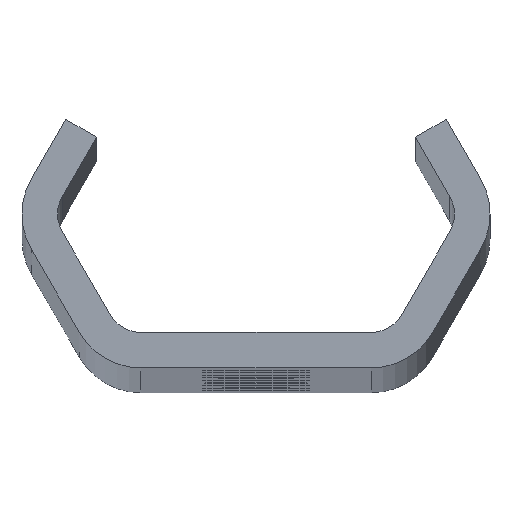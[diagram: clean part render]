
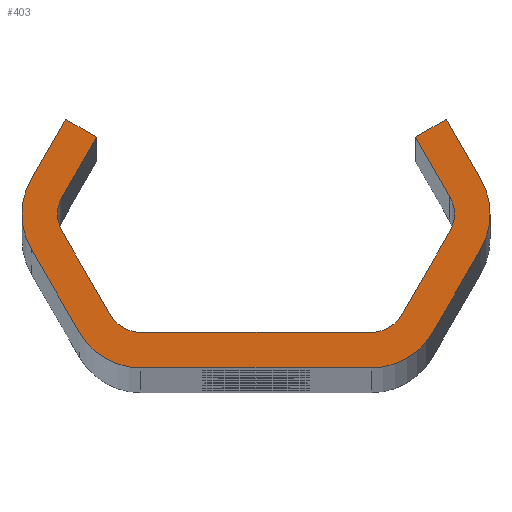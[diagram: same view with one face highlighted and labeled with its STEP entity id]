
A CAD part, top view. The second image highlights one B-rep face of the part: STEP entity #403.
In plain terms, the highlighted planar face has unit normal (0, 0, 1).
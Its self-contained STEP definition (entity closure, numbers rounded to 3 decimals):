
#403=ADVANCED_FACE('NONE',(#1090),#1091,.F.);
#1090=FACE_OUTER_BOUND('',#3400,.T.);
#1091=PLANE('',#3401);
#3400=EDGE_LOOP('',(#6841,#6842,#6843,#6844,#6845,#6846,#6847,#6848,#6849,#6850,#6851,#6852,#6853,#6854,#6855,#6856,#6857,#6858,#6859,#6860,#6861,#6862,#6863,#6864));
#3401=AXIS2_PLACEMENT_3D('',#6865,#6866,#6867);
#6841=ORIENTED_EDGE('',*,*,#9157,.T.);
#6842=ORIENTED_EDGE('',*,*,#9183,.T.);
#6843=ORIENTED_EDGE('',*,*,#8948,.T.);
#6844=ORIENTED_EDGE('',*,*,#9159,.T.);
#6845=ORIENTED_EDGE('',*,*,#9184,.T.);
#6846=ORIENTED_EDGE('',*,*,#9163,.T.);
#6847=ORIENTED_EDGE('',*,*,#9185,.T.);
#6848=ORIENTED_EDGE('',*,*,#8955,.T.);
#6849=ORIENTED_EDGE('',*,*,#9186,.T.);
#6850=ORIENTED_EDGE('',*,*,#8786,.T.);
#6851=ORIENTED_EDGE('',*,*,#8958,.T.);
#6852=ORIENTED_EDGE('',*,*,#8964,.T.);
#6853=ORIENTED_EDGE('',*,*,#8967,.T.);
#6854=ORIENTED_EDGE('',*,*,#8945,.T.);
#6855=ORIENTED_EDGE('',*,*,#9187,.T.);
#6856=ORIENTED_EDGE('',*,*,#8969,.T.);
#6857=ORIENTED_EDGE('',*,*,#9188,.T.);
#6858=ORIENTED_EDGE('',*,*,#8976,.T.);
#6859=ORIENTED_EDGE('',*,*,#9189,.T.);
#6860=ORIENTED_EDGE('',*,*,#9144,.T.);
#6861=ORIENTED_EDGE('',*,*,#9190,.T.);
#6862=ORIENTED_EDGE('',*,*,#8781,.T.);
#6863=ORIENTED_EDGE('',*,*,#9147,.T.);
#6864=ORIENTED_EDGE('',*,*,#9153,.T.);
#6865=CARTESIAN_POINT('',(0.0,0.0,1200.0));
#6866=DIRECTION('',(0.0,0.0,-1.0));
#6867=DIRECTION('',(0.0,-1.0,0.0));
#8781=EDGE_CURVE('NONE',#9802,#9806,#9808,.T.);
#8786=EDGE_CURVE('NONE',#9811,#9815,#9817,.T.);
#8945=EDGE_CURVE('NONE',#10103,#10101,#10104,.T.);
#8948=EDGE_CURVE('NONE',#10107,#10108,#10109,.T.);
#8955=EDGE_CURVE('NONE',#10121,#10119,#10122,.T.);
#8958=EDGE_CURVE('NONE',#9815,#10125,#10126,.T.);
#8964=EDGE_CURVE('NONE',#10125,#10133,#10135,.T.);
#8967=EDGE_CURVE('NONE',#10133,#10103,#10138,.T.);
#8969=EDGE_CURVE('NONE',#10140,#10141,#10142,.T.);
#8976=EDGE_CURVE('NONE',#10154,#10152,#10155,.T.);
#9144=EDGE_CURVE('NONE',#10466,#10464,#10467,.T.);
#9147=EDGE_CURVE('NONE',#9806,#10470,#10471,.T.);
#9153=EDGE_CURVE('NONE',#10470,#10478,#10480,.T.);
#9157=EDGE_CURVE('NONE',#10478,#10484,#10486,.T.);
#9159=EDGE_CURVE('NONE',#10108,#10488,#10489,.T.);
#9163=EDGE_CURVE('NONE',#10494,#10495,#10496,.T.);
#9183=EDGE_CURVE('NONE',#10484,#10107,#10518,.T.);
#9184=EDGE_CURVE('NONE',#10488,#10494,#10519,.T.);
#9185=EDGE_CURVE('NONE',#10495,#10121,#10520,.T.);
#9186=EDGE_CURVE('NONE',#10119,#9811,#10521,.T.);
#9187=EDGE_CURVE('NONE',#10101,#10140,#10522,.T.);
#9188=EDGE_CURVE('NONE',#10141,#10154,#10523,.T.);
#9189=EDGE_CURVE('NONE',#10152,#10466,#10524,.T.);
#9190=EDGE_CURVE('NONE',#10464,#9802,#10525,.T.);
#9802=VERTEX_POINT('',#11317);
#9806=VERTEX_POINT('NONE',#11322);
#9808=CIRCLE('',#11325,3.0);
#9811=VERTEX_POINT('',#11328);
#9815=VERTEX_POINT('NONE',#11333);
#9817=CIRCLE('',#11336,6.0);
#10101=VERTEX_POINT('NONE',#13050);
#10103=VERTEX_POINT('NONE',#13053);
#10104=CIRCLE('',#13054,3.0);
#10107=VERTEX_POINT('NONE',#13058);
#10108=VERTEX_POINT('NONE',#13059);
#10109=CIRCLE('',#13060,6.0);
#10119=VERTEX_POINT('NONE',#13073);
#10121=VERTEX_POINT('NONE',#13076);
#10122=LINE('',#13077,#13078);
#10125=VERTEX_POINT('NONE',#13082);
#10126=LINE('',#13083,#13084);
#10133=VERTEX_POINT('NONE',#13094);
#10135=LINE('',#13097,#13098);
#10138=LINE('',#13102,#13103);
#10140=VERTEX_POINT('NONE',#13105);
#10141=VERTEX_POINT('NONE',#13106);
#10142=LINE('',#13107,#13108);
#10152=VERTEX_POINT('NONE',#13122);
#10154=VERTEX_POINT('NONE',#13125);
#10155=LINE('',#13126,#13127);
#10464=VERTEX_POINT('NONE',#14238);
#10466=VERTEX_POINT('NONE',#14241);
#10467=LINE('',#14242,#14243);
#10470=VERTEX_POINT('NONE',#14247);
#10471=LINE('',#14248,#14249);
#10478=VERTEX_POINT('NONE',#14259);
#10480=LINE('',#14262,#14263);
#10484=VERTEX_POINT('NONE',#14268);
#10486=LINE('',#14271,#14272);
#10488=VERTEX_POINT('NONE',#14274);
#10489=LINE('',#14275,#14276);
#10494=VERTEX_POINT('NONE',#14283);
#10495=VERTEX_POINT('NONE',#14284);
#10496=LINE('',#14285,#14286);
#10518=CIRCLE('',#14311,6.0);
#10519=CIRCLE('',#14312,6.0);
#10520=CIRCLE('',#14313,6.0);
#10521=CIRCLE('',#14314,6.0);
#10522=CIRCLE('',#14315,3.0);
#10523=CIRCLE('',#14316,3.0);
#10524=CIRCLE('',#14317,3.0);
#10525=CIRCLE('',#14318,3.0);
#11317=CARTESIAN_POINT('',(-16.764,0.,1200.0));
#11322=CARTESIAN_POINT('',(-16.362,1.5,1200.0));
#11325=AXIS2_PLACEMENT_3D('',#16913,#16914,#16915);
#11328=CARTESIAN_POINT('',(19.764,0.,1200.0));
#11333=CARTESIAN_POINT('',(18.96,3.,1200.0));
#11336=AXIS2_PLACEMENT_3D('',#16921,#16922,#16923);
#13050=CARTESIAN_POINT('',(16.764,0.,1200.0));
#13053=CARTESIAN_POINT('',(16.362,1.5,1200.0));
#13054=AXIS2_PLACEMENT_3D('',#17080,#17081,#17082);
#13058=CARTESIAN_POINT('',(-19.764,0.,1200.0));
#13059=CARTESIAN_POINT('',(-18.96,-3.,1200.0));
#13060=AXIS2_PLACEMENT_3D('',#17084,#17085,#17086);
#13073=CARTESIAN_POINT('',(18.96,-3.,1200.0));
#13076=CARTESIAN_POINT('',(14.919,-10.,1200.0));
#13077=CARTESIAN_POINT('',(20.692,0.,1200.0));
#13078=VECTOR('',#17094,1000.0);
#13082=CARTESIAN_POINT('',(16.074,8.,1200.0));
#13083=CARTESIAN_POINT('',(16.074,8.,1200.0));
#13084=VECTOR('',#17096,1000.0);
#13094=CARTESIAN_POINT('',(13.475,6.5,1200.0));
#13097=CARTESIAN_POINT('',(13.475,6.5,1200.0));
#13098=VECTOR('',#17101,1000.0);
#13102=CARTESIAN_POINT('',(17.228,0.,1200.0));
#13103=VECTOR('',#17103,1000.0);
#13105=CARTESIAN_POINT('',(16.362,-1.5,1200.0));
#13106=CARTESIAN_POINT('',(12.321,-8.5,1200.0));
#13107=CARTESIAN_POINT('',(11.455,-10.0,1200.0));
#13108=VECTOR('',#17104,1000.0);
#13122=CARTESIAN_POINT('',(-9.723,-10.0,1200.0));
#13125=CARTESIAN_POINT('',(9.723,-10.0,1200.0));
#13126=CARTESIAN_POINT('',(-11.455,-10.0,1200.0));
#13127=VECTOR('',#17110,1000.0);
#14238=CARTESIAN_POINT('',(-16.362,-1.5,1200.0));
#14241=CARTESIAN_POINT('',(-12.321,-8.5,1200.0));
#14242=CARTESIAN_POINT('',(-17.228,0.,1200.0));
#14243=VECTOR('',#17291,1000.0);
#14247=CARTESIAN_POINT('',(-13.475,6.5,1200.0));
#14248=CARTESIAN_POINT('',(-13.475,6.5,1200.0));
#14249=VECTOR('',#17293,1000.0);
#14259=CARTESIAN_POINT('',(-16.074,8.,1200.0));
#14262=CARTESIAN_POINT('',(-13.475,6.5,1200.0));
#14263=VECTOR('',#17298,1000.0);
#14268=CARTESIAN_POINT('',(-18.96,3.,1200.0));
#14271=CARTESIAN_POINT('',(-16.074,8.,1200.0));
#14272=VECTOR('',#17301,1000.0);
#14274=CARTESIAN_POINT('',(-14.919,-10.,1200.0));
#14275=CARTESIAN_POINT('',(-20.692,0.,1200.0));
#14276=VECTOR('',#17302,1000.0);
#14283=CARTESIAN_POINT('',(-9.723,-13.0,1200.0));
#14284=CARTESIAN_POINT('',(9.723,-13.0,1200.0));
#14285=CARTESIAN_POINT('',(-13.187,-13.0,1200.0));
#14286=VECTOR('',#17305,1000.0);
#14311=AXIS2_PLACEMENT_3D('',#17354,#17355,#17356);
#14312=AXIS2_PLACEMENT_3D('',#17357,#17358,#17359);
#14313=AXIS2_PLACEMENT_3D('',#17360,#17361,#17362);
#14314=AXIS2_PLACEMENT_3D('',#17363,#17364,#17365);
#14315=AXIS2_PLACEMENT_3D('',#17366,#17367,#17368);
#14316=AXIS2_PLACEMENT_3D('',#17369,#17370,#17371);
#14317=AXIS2_PLACEMENT_3D('',#17372,#17373,#17374);
#14318=AXIS2_PLACEMENT_3D('',#17375,#17376,#17377);
#16913=CARTESIAN_POINT('',(-13.764,0.,1200.0));
#16914=DIRECTION('',(0.0,0.0,-1.0));
#16915=DIRECTION('',(-1.0,0.0,0.0));
#16921=CARTESIAN_POINT('',(13.764,0.,1200.0));
#16922=DIRECTION('',(0.0,0.0,1.0));
#16923=DIRECTION('',(-1.0,0.0,0.0));
#17080=CARTESIAN_POINT('',(13.764,0.,1200.0));
#17081=DIRECTION('',(0.0,0.0,-1.0));
#17082=DIRECTION('',(-1.0,0.0,0.0));
#17084=CARTESIAN_POINT('',(-13.764,0.,1200.0));
#17085=DIRECTION('',(0.0,0.0,1.0));
#17086=DIRECTION('',(-1.0,0.0,0.0));
#17094=DIRECTION('',(0.5,0.866,-0.0));
#17096=DIRECTION('',(-0.5,0.866,-0.0));
#17101=DIRECTION('',(-0.866,-0.5,-0.0));
#17103=DIRECTION('',(0.5,-0.866,-0.0));
#17104=DIRECTION('',(-0.5,-0.866,-0.0));
#17110=DIRECTION('',(-1.0,0.,-0.0));
#17291=DIRECTION('',(-0.5,0.866,-0.0));
#17293=DIRECTION('',(0.5,0.866,-0.0));
#17298=DIRECTION('',(-0.866,0.5,0.0));
#17301=DIRECTION('',(-0.5,-0.866,0.0));
#17302=DIRECTION('',(0.5,-0.866,0.0));
#17305=DIRECTION('',(1.0,0.0,0.0));
#17354=CARTESIAN_POINT('',(-13.764,0.,1200.0));
#17355=DIRECTION('',(0.0,0.0,1.0));
#17356=DIRECTION('',(-1.0,0.0,0.0));
#17357=CARTESIAN_POINT('',(-9.723,-7.0,1200.0));
#17358=DIRECTION('',(0.0,0.0,1.0));
#17359=DIRECTION('',(-1.0,0.0,0.0));
#17360=CARTESIAN_POINT('',(9.723,-7.0,1200.0));
#17361=DIRECTION('',(0.0,0.0,1.0));
#17362=DIRECTION('',(-1.0,0.,0.0));
#17363=CARTESIAN_POINT('',(13.764,0.,1200.0));
#17364=DIRECTION('',(0.0,0.0,1.0));
#17365=DIRECTION('',(-1.0,0.0,0.0));
#17366=CARTESIAN_POINT('',(13.764,0.,1200.0));
#17367=DIRECTION('',(0.0,0.0,-1.0));
#17368=DIRECTION('',(-1.0,0.0,0.0));
#17369=CARTESIAN_POINT('',(9.723,-7.0,1200.0));
#17370=DIRECTION('',(0.0,0.0,-1.0));
#17371=DIRECTION('',(-1.0,0.0,0.0));
#17372=CARTESIAN_POINT('',(-9.723,-7.0,1200.0));
#17373=DIRECTION('',(0.0,0.0,-1.0));
#17374=DIRECTION('',(-1.0,0.0,0.0));
#17375=CARTESIAN_POINT('',(-13.764,0.,1200.0));
#17376=DIRECTION('',(0.0,0.0,-1.0));
#17377=DIRECTION('',(-1.0,0.0,0.0));
